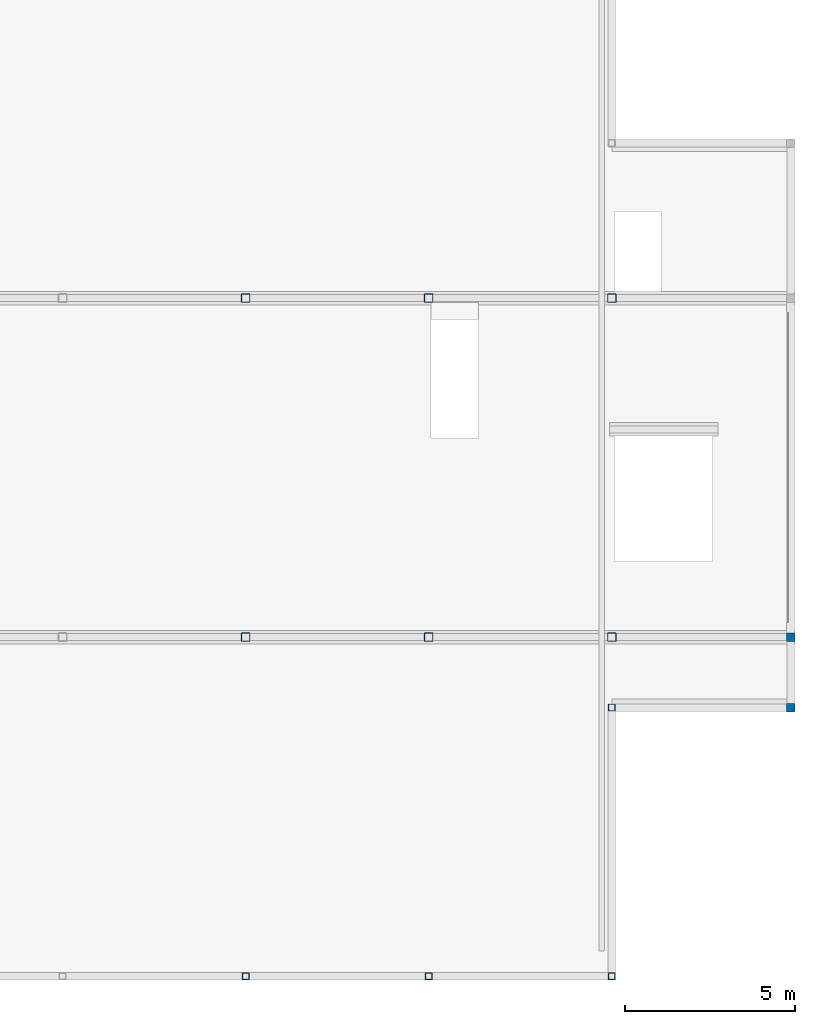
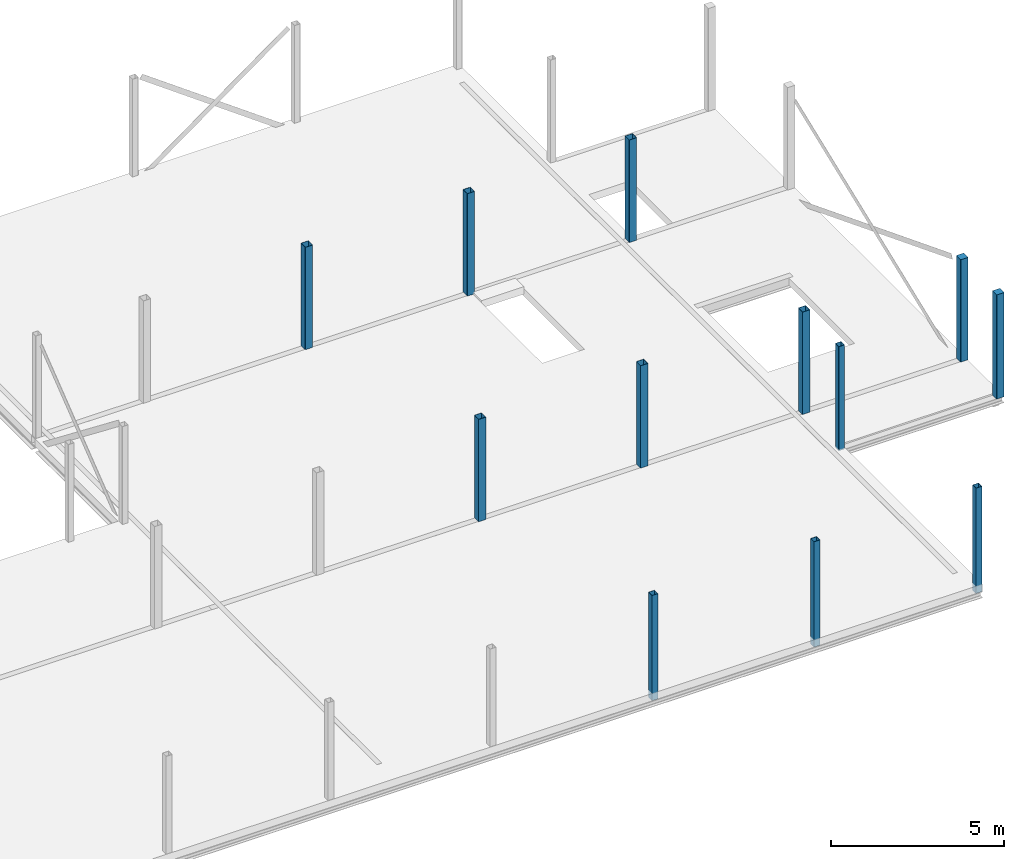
# One storey, part 4 of 7: 12 columns.
"""IFC2X3 building model written with IfcOpenShell, lengths in millimetres."""

from ifc_helpers import new_model, entity, si_unit, converted_unit, derived_unit, direction, frame, frame_2d, origin, place, context, subcontext, project, spatial, polyline, circle_curve, parameter, trimmed, segment, composite_curve, outline, extrude, source, transform, mapped, material, material_list, type_object, type_shapes, element, save


model = new_model("IFC2X3")

# Units and contexts
model_context = context("Model", 3, precision=0.01, world=origin(), true_north=direction((6.123031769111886e-17, 1.0)))
body_context = subcontext(model_context, "Body", "Model", "MODEL_VIEW")
ifc_project = project(units=[si_unit("LENGTHUNIT", "METRE", prefix="MILLI"), si_unit("AREAUNIT", "SQUARE_METRE"), si_unit("VOLUMEUNIT", "CUBIC_METRE"), converted_unit("PLANEANGLEUNIT", "DEGREE", entity("IfcPlaneAngleMeasure", 0.017453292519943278), si_unit("PLANEANGLEUNIT", "RADIAN"), dimensions=[0, 0, 0, 0, 0, 0, 0]), si_unit("MASSUNIT", "GRAM", prefix="KILO"), derived_unit("MASSDENSITYUNIT", [(si_unit("MASSUNIT", "GRAM", prefix="KILO"), 1), (si_unit("LENGTHUNIT", "METRE"), -3)]), derived_unit("IONCONCENTRATIONUNIT", [(si_unit("MASSUNIT", "GRAM", prefix="KILO"), 1), (si_unit("LENGTHUNIT", "METRE"), -3)]), derived_unit("MOMENTOFINERTIAUNIT", [(si_unit("LENGTHUNIT", "METRE"), 4)]), si_unit("TIMEUNIT", "SECOND"), si_unit("FREQUENCYUNIT", "HERTZ"), si_unit("THERMODYNAMICTEMPERATUREUNIT", "DEGREE_CELSIUS"), derived_unit("THERMALTRANSMITTANCEUNIT", [(si_unit("MASSUNIT", "GRAM", prefix="KILO"), 1), (si_unit("THERMODYNAMICTEMPERATUREUNIT", "KELVIN"), -1), (si_unit("TIMEUNIT", "SECOND"), -3)]), derived_unit("THERMALCONDUCTANCEUNIT", [(si_unit("MASSUNIT", "GRAM", prefix="KILO"), 1), (si_unit("THERMODYNAMICTEMPERATUREUNIT", "KELVIN"), -1), (si_unit("TIMEUNIT", "SECOND"), -3), (si_unit("LENGTHUNIT", "METRE"), 1)]), derived_unit("VOLUMETRICFLOWRATEUNIT", [(si_unit("LENGTHUNIT", "METRE", prefix="DECI"), 3), (si_unit("TIMEUNIT", "SECOND"), -1)]), derived_unit("MASSFLOWRATEUNIT", [(si_unit("MASSUNIT", "GRAM", prefix="KILO"), 1), (si_unit("TIMEUNIT", "SECOND"), -1)]), derived_unit("ROTATIONALFREQUENCYUNIT", [(si_unit("TIMEUNIT", "SECOND"), -1)]), si_unit("ELECTRICCURRENTUNIT", "AMPERE"), si_unit("ELECTRICVOLTAGEUNIT", "VOLT"), si_unit("POWERUNIT", "WATT"), si_unit("FORCEUNIT", "NEWTON", prefix="KILO"), si_unit("ILLUMINANCEUNIT", "LUX"), si_unit("LUMINOUSFLUXUNIT", "LUMEN"), si_unit("LUMINOUSINTENSITYUNIT", "CANDELA"), si_unit("ENERGYUNIT", "JOULE"), derived_unit("USERDEFINED", [(si_unit("MASSUNIT", "GRAM", prefix="KILO"), -1), (si_unit("LENGTHUNIT", "METRE"), -2), (si_unit("TIMEUNIT", "SECOND"), 3), (si_unit("LUMINOUSFLUXUNIT", "LUMEN"), 1)]), derived_unit("USERDEFINED", [(si_unit("MASSUNIT", "GRAM", prefix="KILO"), 1), (si_unit("TIMEUNIT", "SECOND"), -3), (si_unit("LENGTHUNIT", "METRE"), 3), (si_unit("ELECTRICCURRENTUNIT", "AMPERE"), -2)]), derived_unit("SOUNDPOWERUNIT", [(si_unit("MASSUNIT", "GRAM", prefix="KILO"), 1), (si_unit("TIMEUNIT", "SECOND"), -3), (si_unit("LENGTHUNIT", "METRE"), 2)]), derived_unit("SOUNDPRESSUREUNIT", [(si_unit("MASSUNIT", "GRAM", prefix="KILO"), 1), (si_unit("LENGTHUNIT", "METRE"), -1), (si_unit("TIMEUNIT", "SECOND"), -2)]), derived_unit("LINEARVELOCITYUNIT", [(si_unit("LENGTHUNIT", "METRE"), 1), (si_unit("TIMEUNIT", "SECOND"), -1)]), si_unit("PRESSUREUNIT", "PASCAL"), derived_unit("USERDEFINED", [(si_unit("MASSUNIT", "GRAM", prefix="KILO"), 1), (si_unit("LENGTHUNIT", "METRE"), -2), (si_unit("TIMEUNIT", "SECOND"), -2)]), derived_unit("LINEARFORCEUNIT", [(si_unit("MASSUNIT", "GRAM", prefix="KILO"), 1), (si_unit("TIMEUNIT", "SECOND"), -2)]), derived_unit("PLANARFORCEUNIT", [(si_unit("MASSUNIT", "GRAM", prefix="KILO"), 1), (si_unit("LENGTHUNIT", "METRE"), -1), (si_unit("TIMEUNIT", "SECOND"), -2)]), derived_unit("SPECIFICHEATCAPACITYUNIT", [(si_unit("THERMODYNAMICTEMPERATUREUNIT", "KELVIN"), -1), (si_unit("LENGTHUNIT", "METRE"), 2), (si_unit("TIMEUNIT", "SECOND"), -2)]), derived_unit("HEATFLUXDENSITYUNIT", [(si_unit("MASSUNIT", "GRAM", prefix="KILO"), 1), (si_unit("TIMEUNIT", "SECOND"), -3)]), derived_unit("HEATINGVALUEUNIT", [(si_unit("LENGTHUNIT", "METRE"), 2), (si_unit("TIMEUNIT", "SECOND"), -2)]), derived_unit("VAPORPERMEABILITYUNIT", [(si_unit("LENGTHUNIT", "METRE"), -1), (si_unit("TIMEUNIT", "SECOND"), 1)]), derived_unit("DYNAMICVISCOSITYUNIT", [(si_unit("MASSUNIT", "GRAM", prefix="KILO"), 1), (si_unit("TIMEUNIT", "SECOND"), -1), (si_unit("LENGTHUNIT", "METRE"), -1)]), derived_unit("THERMALEXPANSIONCOEFFICIENTUNIT", [(si_unit("THERMODYNAMICTEMPERATUREUNIT", "KELVIN"), -1)]), derived_unit("MODULUSOFELASTICITYUNIT", [(si_unit("MASSUNIT", "GRAM", prefix="KILO"), 1), (si_unit("LENGTHUNIT", "METRE"), -1), (si_unit("TIMEUNIT", "SECOND"), -2)]), derived_unit("ISOTHERMALMOISTURECAPACITYUNIT", [(si_unit("MASSUNIT", "GRAM", prefix="KILO"), -1), (si_unit("LENGTHUNIT", "METRE"), 3)]), derived_unit("MOISTUREDIFFUSIVITYUNIT", [(si_unit("TIMEUNIT", "SECOND"), -1), (si_unit("LENGTHUNIT", "METRE"), 2)]), derived_unit("MASSPERLENGTHUNIT", [(si_unit("MASSUNIT", "GRAM", prefix="KILO"), 1), (si_unit("LENGTHUNIT", "METRE"), -1)]), derived_unit("THERMALRESISTANCEUNIT", [(si_unit("MASSUNIT", "GRAM", prefix="KILO"), -1), (si_unit("TIMEUNIT", "SECOND"), 3), (si_unit("THERMODYNAMICTEMPERATUREUNIT", "KELVIN"), 1)]), derived_unit("ACCELERATIONUNIT", [(si_unit("LENGTHUNIT", "METRE"), 1), (si_unit("TIMEUNIT", "SECOND"), -2)]), derived_unit("ANGULARVELOCITYUNIT", [(si_unit("TIMEUNIT", "SECOND"), -1), (si_unit("PLANEANGLEUNIT", "RADIAN"), 1)]), derived_unit("LINEARSTIFFNESSUNIT", [(si_unit("MASSUNIT", "GRAM", prefix="KILO"), 1), (si_unit("TIMEUNIT", "SECOND"), -2)]), derived_unit("WARPINGCONSTANTUNIT", [(si_unit("LENGTHUNIT", "METRE"), 6)]), derived_unit("LINEARMOMENTUNIT", [(si_unit("MASSUNIT", "GRAM", prefix="KILO"), 1), (si_unit("LENGTHUNIT", "METRE"), 1), (si_unit("TIMEUNIT", "SECOND"), -2)]), derived_unit("TORQUEUNIT", [(si_unit("MASSUNIT", "GRAM", prefix="KILO"), 1), (si_unit("LENGTHUNIT", "METRE"), 2), (si_unit("TIMEUNIT", "SECOND"), -2)])], contexts=[model_context])

# Site, building, storey
site_placement = place(None, origin())
site = spatial("IfcSite", under=ifc_project, at=site_placement, Name="Default", CompositionType="ELEMENT")
building_placement = place(site_placement, origin())
building = spatial("IfcBuilding", under=site, at=building_placement, CompositionType="ELEMENT")
storey_placement = place(building_placement, frame((0.0, 0.0, 4000.0)))
storey = spatial("IfcBuildingStorey", under=building, at=storey_placement, Name="01 eerste verdieping", CompositionType="ELEMENT", Elevation=4000.0000000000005)

# Columns
ifc_material_1 = material(Name="VRI_staal")
column_type_1 = type_object("IfcColumnType", Name="28_SC_VRI_kolom_staal_koker:K200x200x8", PredefinedType="COLUMN", material=ifc_material_1)
shared_shape_1 = source(origin(), body_context, "Body", "SweptSolid", [
    extrude(outline(composite_curve([segment(polyline([(-88.0, -100.0), (88.0, -100.0)]), True, "CONTINUOUS"), segment(trimmed(circle_curve(frame_2d((88.0, -88.0), x_axis=(0.0, -1.0)), 12.0), [parameter(359.9999999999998)], [parameter(89.99999999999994)], True, "PARAMETER"), True, "CONTINUOUS"), segment(polyline([(100.0, -88.0), (100.0, 88.0)]), True, "CONTINUOUS"), segment(trimmed(circle_curve(frame_2d((88.0, 88.0), x_axis=(0.0, -1.0)), 12.0), [parameter(90.00000000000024)], [parameter(180.0000000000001)], True, "PARAMETER"), True, "CONTINUOUS"), segment(polyline([(88.0, 100.0), (-88.0, 100.0)]), True, "CONTINUOUS"), segment(trimmed(circle_curve(frame_2d((-88.0, 88.0), x_axis=(0.0, -1.0)), 12.0), [parameter(179.99999999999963)], [parameter(269.9999999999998)], True, "PARAMETER"), True, "CONTINUOUS"), segment(polyline([(-100.0, 88.0), (-100.0, -88.0)]), True, "CONTINUOUS"), segment(trimmed(circle_curve(frame_2d((-88.0, -88.0), x_axis=(0.0, -1.0)), 12.0), [parameter(270.00000000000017)], [parameter(1.0177774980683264e-13)], True, "PARAMETER"), True, "CONTINUOUS")], self_intersect=False), holes=[composite_curve([segment(trimmed(circle_curve(frame_2d((-88.0, 88.0), x_axis=(0.0, -1.0)), 4.0), [parameter(180.0000000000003)], [parameter(270.0000000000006)], True, "PARAMETER"), False, "CONTINUOUS"), segment(polyline([(-88.0, 92.0), (88.0, 92.0)]), True, "CONTINUOUS"), segment(trimmed(circle_curve(frame_2d((88.0, 88.0), x_axis=(0.0, -1.0)), 4.0), [parameter(90.00000000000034)], [parameter(179.99999999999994)], True, "PARAMETER"), False, "CONTINUOUS"), segment(polyline([(92.0, 88.0), (92.0, -88.0)]), True, "CONTINUOUS"), segment(trimmed(circle_curve(frame_2d((88.0, -88.0), x_axis=(0.0, -1.0)), 4.0), [parameter(5.088887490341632e-13)], [parameter(90.00000000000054)], True, "PARAMETER"), False, "CONTINUOUS"), segment(polyline([(88.0, -92.0), (-88.0, -92.0)]), True, "CONTINUOUS"), segment(trimmed(circle_curve(frame_2d((-88.0, -88.0), x_axis=(0.0, -1.0)), 4.0), [parameter(269.9999999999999)], [parameter(0.0)], True, "PARAMETER"), False, "CONTINUOUS"), segment(polyline([(-92.0, -88.0), (-92.0, 88.0)]), True, "CONTINUOUS")], self_intersect=False)]), frame((-5.0, 0.0, 3655.0), z_axis=(0.0, 0.0, 1.0), x_axis=(0.0, 1.0, 0.0)), (0.0, 0.0, 1.0), 3709.9999999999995),
])
type_shapes(column_type_1, [shared_shape_1])
for number, where in (
    (1, (42405.0, 10000.0, -4000.0)),
    (2, (53205.0, 10000.0, -4000.0)),
    (3, (47805.0, 10000.0, -4000.0)),
):
    element("IfcColumn", number, at=place(storey_placement, frame(where)), inside=storey, type_object=column_type_1, material=ifc_material_1, Name="28_SC_VRI_kolom_staal_koker:K200x200x8", ObjectType="28_SC_VRI_kolom_staal_koker:K200x200x8", context=body_context, shape_type="MappedRepresentation", body=[
        mapped(shared_shape_1, transform((0.0, 0.0, 0.0), scale=1.0)),
    ])
column_type_2 = type_object("IfcColumnType", Name="28_SC_VRI_kolom_staal_koker:K200x200x8", PredefinedType="COLUMN", material=ifc_material_1)
shared_shape_2 = source(origin(), body_context, "Body", "SweptSolid", [
    extrude(outline(composite_curve([segment(polyline([(-88.0, -100.0), (88.0, -100.0)]), True, "CONTINUOUS"), segment(trimmed(circle_curve(frame_2d((88.0, -88.0), x_axis=(0.0, -1.0)), 12.0), [parameter(359.9999999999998)], [parameter(89.99999999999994)], True, "PARAMETER"), True, "CONTINUOUS"), segment(polyline([(100.0, -88.0), (100.0, 88.0)]), True, "CONTINUOUS"), segment(trimmed(circle_curve(frame_2d((88.0, 88.0), x_axis=(0.0, -1.0)), 12.0), [parameter(90.00000000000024)], [parameter(180.0000000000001)], True, "PARAMETER"), True, "CONTINUOUS"), segment(polyline([(88.0, 100.0), (-88.0, 100.0)]), True, "CONTINUOUS"), segment(trimmed(circle_curve(frame_2d((-88.0, 88.0), x_axis=(0.0, -1.0)), 12.0), [parameter(179.99999999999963)], [parameter(269.9999999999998)], True, "PARAMETER"), True, "CONTINUOUS"), segment(polyline([(-100.0, 88.0), (-100.0, -88.0)]), True, "CONTINUOUS"), segment(trimmed(circle_curve(frame_2d((-88.0, -88.0), x_axis=(0.0, -1.0)), 12.0), [parameter(270.00000000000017)], [parameter(1.0177774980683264e-13)], True, "PARAMETER"), True, "CONTINUOUS")], self_intersect=False), holes=[composite_curve([segment(trimmed(circle_curve(frame_2d((-88.0, 88.0), x_axis=(0.0, -1.0)), 4.0), [parameter(180.0000000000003)], [parameter(270.0000000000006)], True, "PARAMETER"), False, "CONTINUOUS"), segment(polyline([(-88.0, 92.0), (88.0, 92.0)]), True, "CONTINUOUS"), segment(trimmed(circle_curve(frame_2d((88.0, 88.0), x_axis=(0.0, -1.0)), 4.0), [parameter(90.00000000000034)], [parameter(179.99999999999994)], True, "PARAMETER"), False, "CONTINUOUS"), segment(polyline([(92.0, 88.0), (92.0, -88.0)]), True, "CONTINUOUS"), segment(trimmed(circle_curve(frame_2d((88.0, -88.0), x_axis=(0.0, -1.0)), 4.0), [parameter(5.088887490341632e-13)], [parameter(90.00000000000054)], True, "PARAMETER"), False, "CONTINUOUS"), segment(polyline([(88.0, -92.0), (-88.0, -92.0)]), True, "CONTINUOUS"), segment(trimmed(circle_curve(frame_2d((-88.0, -88.0), x_axis=(0.0, -1.0)), 4.0), [parameter(269.9999999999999)], [parameter(0.0)], True, "PARAMETER"), False, "CONTINUOUS"), segment(polyline([(-92.0, -88.0), (-92.0, 88.0)]), True, "CONTINUOUS")], self_intersect=False)]), frame((-5.0, 0.0, 3875.0), z_axis=(0.0, 0.0, 1.0), x_axis=(0.0, 1.0, 0.0)), (0.0, 0.0, 1.0), 3669.9999999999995),
])
type_shapes(column_type_2, [shared_shape_2])
column_1_placement = place(storey_placement, frame((53205.0, 17925.0, -4000.0)))
element("IfcColumn", 4, at=column_1_placement, inside=storey, type_object=column_type_2, material=ifc_material_1, Name="28_SC_VRI_kolom_staal_koker:K200x200x8", ObjectType="28_SC_VRI_kolom_staal_koker:K200x200x8", context=body_context, shape_type="MappedRepresentation", body=[
    mapped(shared_shape_2, transform((0.0, 0.0, 0.0), scale=1.0)),
])
ifc_material_2 = material(Name="VRI_beton_ihwg")
ifc_material_list = material_list([ifc_material_2, ifc_material_1])
column_type_3 = type_object("IfcColumnType", Name="28_SC_VRI_kolom_staal_betongevuld_koker:K250x250x8_gevuld", PredefinedType="COLUMN", material=ifc_material_list)
shared_shape_3 = source(origin(), body_context, "Body", "SweptSolid", [
    extrude(outline(composite_curve([segment(polyline([(-113.0, -117.0), (113.0, -117.0)]), True, "CONTINUOUS"), segment(trimmed(circle_curve(frame_2d((113.0, -113.0), x_axis=(-1.0, 0.0)), 4.0), [parameter(89.99999999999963)], [parameter(179.9999999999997)], True, "PARAMETER"), True, "CONTINUOUS"), segment(polyline([(117.0, -113.0), (117.0, 113.0)]), True, "CONTINUOUS"), segment(trimmed(circle_curve(frame_2d((113.0, 113.0), x_axis=(-1.0, 0.0)), 4.0), [parameter(180.00000000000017)], [parameter(269.99999999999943)], True, "PARAMETER"), True, "CONTINUOUS"), segment(polyline([(113.0, 117.0), (-113.0, 117.0)]), True, "CONTINUOUS"), segment(trimmed(circle_curve(frame_2d((-113.0, 113.0), x_axis=(-1.0, 0.0)), 4.0), [parameter(269.99999999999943)], [parameter(359.9999999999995)], True, "PARAMETER"), True, "CONTINUOUS"), segment(polyline([(-117.0, 113.0), (-117.0, -113.0)]), True, "CONTINUOUS"), segment(trimmed(circle_curve(frame_2d((-113.0, -113.0), x_axis=(-1.0, 0.0)), 4.0), [parameter(359.9999999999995)], [parameter(89.99999999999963)], True, "PARAMETER"), True, "CONTINUOUS")], self_intersect=False)), frame((-5.0, 0.0, 3875.0), z_axis=(0.0, 0.0, 1.0), x_axis=(-1.0, 0.0, 0.0)), (0.0, 0.0, 1.0), 3669.9999999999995),
    extrude(outline(composite_curve([segment(polyline([(-113.0, -125.0), (113.0, -125.0)]), True, "CONTINUOUS"), segment(trimmed(circle_curve(frame_2d((113.0, -113.0), x_axis=(0.0, -1.0)), 12.0), [parameter(359.99999999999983)], [parameter(89.99999999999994)], True, "PARAMETER"), True, "CONTINUOUS"), segment(polyline([(125.0, -113.0), (125.0, 113.0)]), True, "CONTINUOUS"), segment(trimmed(circle_curve(frame_2d((113.0, 113.0), x_axis=(0.0, -1.0)), 12.0), [parameter(90.00000000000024)], [parameter(180.00000000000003)], True, "PARAMETER"), True, "CONTINUOUS"), segment(polyline([(113.0, 125.0), (-113.0, 125.0)]), True, "CONTINUOUS"), segment(trimmed(circle_curve(frame_2d((-113.0, 113.0), x_axis=(0.0, -1.0)), 12.0), [parameter(179.99999999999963)], [parameter(269.9999999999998)], True, "PARAMETER"), True, "CONTINUOUS"), segment(polyline([(-125.0, 113.0), (-125.0, -113.0)]), True, "CONTINUOUS"), segment(trimmed(circle_curve(frame_2d((-113.0, -113.0), x_axis=(0.0, -1.0)), 12.0), [parameter(270.00000000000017)], [parameter(1.0177774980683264e-13)], True, "PARAMETER"), True, "CONTINUOUS")], self_intersect=False), holes=[composite_curve([segment(trimmed(circle_curve(frame_2d((-113.0, 113.0), x_axis=(0.0, -1.0)), 4.0), [parameter(180.0000000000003)], [parameter(270.0000000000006)], True, "PARAMETER"), False, "CONTINUOUS"), segment(polyline([(-113.0, 117.0), (113.0, 117.0)]), True, "CONTINUOUS"), segment(trimmed(circle_curve(frame_2d((113.0, 113.0), x_axis=(0.0, -1.0)), 4.0), [parameter(90.00000000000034)], [parameter(179.9999999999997)], True, "PARAMETER"), False, "CONTINUOUS"), segment(polyline([(117.0, 113.0), (117.0, -113.0)]), True, "CONTINUOUS"), segment(trimmed(circle_curve(frame_2d((113.0, -113.0), x_axis=(0.0, -1.0)), 4.0), [parameter(5.088887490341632e-13)], [parameter(90.00000000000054)], True, "PARAMETER"), False, "CONTINUOUS"), segment(polyline([(113.0, -117.0), (-113.0, -117.0)]), True, "CONTINUOUS"), segment(trimmed(circle_curve(frame_2d((-113.0, -113.0), x_axis=(0.0, -1.0)), 4.0), [parameter(269.9999999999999)], [parameter(0.0)], True, "PARAMETER"), False, "CONTINUOUS"), segment(polyline([(-117.0, -113.0), (-117.0, 113.0)]), True, "CONTINUOUS")], self_intersect=False)]), frame((-5.0, 0.0, 3875.0), z_axis=(0.0, 0.0, 1.0), x_axis=(0.0, 1.0, 0.0)), (0.0, 0.0, 1.0), 3669.9999999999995),
])
type_shapes(column_type_3, [shared_shape_3])
column_2_placement = place(storey_placement, frame((58480.0, 17925.0, -4000.0)))
element("IfcColumn", 5, at=column_2_placement, inside=storey, type_object=column_type_3, material=ifc_material_list, Name="28_SC_VRI_kolom_staal_betongevuld_koker:K250x250x8_gevuld", ObjectType="28_SC_VRI_kolom_staal_betongevuld_koker:K250x250x8_gevuld", context=body_context, shape_type="MappedRepresentation", body=[
    mapped(shared_shape_3, transform((0.0, 0.0, 0.0), scale=1.0)),
])
column_type_4 = type_object("IfcColumnType", Name="28_SC_VRI_kolom_staal_betongevuld_koker:K250x250x8_gevuld", PredefinedType="COLUMN", material=ifc_material_list)
shared_shape_4 = source(origin(), body_context, "Body", "SweptSolid", [
    extrude(outline(composite_curve([segment(polyline([(-113.0, -117.0), (113.0, -117.0)]), True, "CONTINUOUS"), segment(trimmed(circle_curve(frame_2d((113.0, -113.0), x_axis=(-1.0, 0.0)), 4.0), [parameter(89.99999999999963)], [parameter(179.9999999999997)], True, "PARAMETER"), True, "CONTINUOUS"), segment(polyline([(117.0, -113.0), (117.0, 113.0)]), True, "CONTINUOUS"), segment(trimmed(circle_curve(frame_2d((113.0, 113.0), x_axis=(-1.0, 0.0)), 4.0), [parameter(180.00000000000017)], [parameter(269.99999999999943)], True, "PARAMETER"), True, "CONTINUOUS"), segment(polyline([(113.0, 117.0), (-113.0, 117.0)]), True, "CONTINUOUS"), segment(trimmed(circle_curve(frame_2d((-113.0, 113.0), x_axis=(-1.0, 0.0)), 4.0), [parameter(269.99999999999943)], [parameter(359.9999999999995)], True, "PARAMETER"), True, "CONTINUOUS"), segment(polyline([(-117.0, 113.0), (-117.0, -113.0)]), True, "CONTINUOUS"), segment(trimmed(circle_curve(frame_2d((-113.0, -113.0), x_axis=(-1.0, 0.0)), 4.0), [parameter(359.9999999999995)], [parameter(89.99999999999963)], True, "PARAMETER"), True, "CONTINUOUS")], self_intersect=False)), frame((-5.0, 0.0, 3920.0), z_axis=(0.0, 0.0, 1.0), x_axis=(-1.0, 0.0, 0.0)), (0.0, 0.0, 1.0), 3609.999999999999),
    extrude(outline(composite_curve([segment(polyline([(-113.0, -125.0), (113.0, -125.0)]), True, "CONTINUOUS"), segment(trimmed(circle_curve(frame_2d((113.0, -113.0), x_axis=(0.0, -1.0)), 12.0), [parameter(359.99999999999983)], [parameter(89.99999999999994)], True, "PARAMETER"), True, "CONTINUOUS"), segment(polyline([(125.0, -113.0), (125.0, 113.0)]), True, "CONTINUOUS"), segment(trimmed(circle_curve(frame_2d((113.0, 113.0), x_axis=(0.0, -1.0)), 12.0), [parameter(90.00000000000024)], [parameter(180.00000000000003)], True, "PARAMETER"), True, "CONTINUOUS"), segment(polyline([(113.0, 125.0), (-113.0, 125.0)]), True, "CONTINUOUS"), segment(trimmed(circle_curve(frame_2d((-113.0, 113.0), x_axis=(0.0, -1.0)), 12.0), [parameter(179.99999999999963)], [parameter(269.9999999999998)], True, "PARAMETER"), True, "CONTINUOUS"), segment(polyline([(-125.0, 113.0), (-125.0, -113.0)]), True, "CONTINUOUS"), segment(trimmed(circle_curve(frame_2d((-113.0, -113.0), x_axis=(0.0, -1.0)), 12.0), [parameter(270.00000000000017)], [parameter(1.0177774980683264e-13)], True, "PARAMETER"), True, "CONTINUOUS")], self_intersect=False), holes=[composite_curve([segment(trimmed(circle_curve(frame_2d((-113.0, 113.0), x_axis=(0.0, -1.0)), 4.0), [parameter(180.0000000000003)], [parameter(270.0000000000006)], True, "PARAMETER"), False, "CONTINUOUS"), segment(polyline([(-113.0, 117.0), (113.0, 117.0)]), True, "CONTINUOUS"), segment(trimmed(circle_curve(frame_2d((113.0, 113.0), x_axis=(0.0, -1.0)), 4.0), [parameter(90.00000000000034)], [parameter(179.9999999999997)], True, "PARAMETER"), False, "CONTINUOUS"), segment(polyline([(117.0, 113.0), (117.0, -113.0)]), True, "CONTINUOUS"), segment(trimmed(circle_curve(frame_2d((113.0, -113.0), x_axis=(0.0, -1.0)), 4.0), [parameter(5.088887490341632e-13)], [parameter(90.00000000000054)], True, "PARAMETER"), False, "CONTINUOUS"), segment(polyline([(113.0, -117.0), (-113.0, -117.0)]), True, "CONTINUOUS"), segment(trimmed(circle_curve(frame_2d((-113.0, -113.0), x_axis=(0.0, -1.0)), 4.0), [parameter(269.9999999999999)], [parameter(0.0)], True, "PARAMETER"), False, "CONTINUOUS"), segment(polyline([(-117.0, -113.0), (-117.0, 113.0)]), True, "CONTINUOUS")], self_intersect=False)]), frame((-5.0, 0.0, 3920.0), z_axis=(0.0, 0.0, 1.0), x_axis=(0.0, 1.0, 0.0)), (0.0, 0.0, 1.0), 3609.999999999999),
])
type_shapes(column_type_4, [shared_shape_4])
column_3_placement = place(storey_placement, frame((58480.0, 20000.0, -4000.0)))
element("IfcColumn", 6, at=column_3_placement, inside=storey, type_object=column_type_4, material=ifc_material_list, Name="28_SC_VRI_kolom_staal_betongevuld_koker:K250x250x8_gevuld", ObjectType="28_SC_VRI_kolom_staal_betongevuld_koker:K250x250x8_gevuld", context=body_context, shape_type="MappedRepresentation", body=[
    mapped(shared_shape_4, transform((0.0, 0.0, 0.0), scale=1.0)),
])
column_type_5 = type_object("IfcColumnType", Name="28_SC_VRI_kolom_staal_koker:K250x250x8", PredefinedType="COLUMN", material=ifc_material_1)
shared_shape_5 = source(origin(), body_context, "Body", "SweptSolid", [
    extrude(outline(composite_curve([segment(polyline([(-113.0, -125.0), (113.0, -125.0)]), True, "CONTINUOUS"), segment(trimmed(circle_curve(frame_2d((113.0, -113.0), x_axis=(0.0, -1.0)), 12.0), [parameter(359.99999999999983)], [parameter(89.99999999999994)], True, "PARAMETER"), True, "CONTINUOUS"), segment(polyline([(125.0, -113.0), (125.0, 113.0)]), True, "CONTINUOUS"), segment(trimmed(circle_curve(frame_2d((113.0, 113.0), x_axis=(0.0, -1.0)), 12.0), [parameter(90.00000000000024)], [parameter(180.00000000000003)], True, "PARAMETER"), True, "CONTINUOUS"), segment(polyline([(113.0, 125.0), (-113.0, 125.0)]), True, "CONTINUOUS"), segment(trimmed(circle_curve(frame_2d((-113.0, 113.0), x_axis=(0.0, -1.0)), 12.0), [parameter(179.99999999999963)], [parameter(269.9999999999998)], True, "PARAMETER"), True, "CONTINUOUS"), segment(polyline([(-125.0, 113.0), (-125.0, -113.0)]), True, "CONTINUOUS"), segment(trimmed(circle_curve(frame_2d((-113.0, -113.0), x_axis=(0.0, -1.0)), 12.0), [parameter(270.00000000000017)], [parameter(1.0177774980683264e-13)], True, "PARAMETER"), True, "CONTINUOUS")], self_intersect=False), holes=[composite_curve([segment(trimmed(circle_curve(frame_2d((-113.0, 113.0), x_axis=(0.0, -1.0)), 4.0), [parameter(180.0000000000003)], [parameter(270.0000000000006)], True, "PARAMETER"), False, "CONTINUOUS"), segment(polyline([(-113.0, 117.0), (113.0, 117.0)]), True, "CONTINUOUS"), segment(trimmed(circle_curve(frame_2d((113.0, 113.0), x_axis=(0.0, -1.0)), 4.0), [parameter(90.00000000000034)], [parameter(179.9999999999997)], True, "PARAMETER"), False, "CONTINUOUS"), segment(polyline([(117.0, 113.0), (117.0, -113.0)]), True, "CONTINUOUS"), segment(trimmed(circle_curve(frame_2d((113.0, -113.0), x_axis=(0.0, -1.0)), 4.0), [parameter(5.088887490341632e-13)], [parameter(90.00000000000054)], True, "PARAMETER"), False, "CONTINUOUS"), segment(polyline([(113.0, -117.0), (-113.0, -117.0)]), True, "CONTINUOUS"), segment(trimmed(circle_curve(frame_2d((-113.0, -113.0), x_axis=(0.0, -1.0)), 4.0), [parameter(269.9999999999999)], [parameter(0.0)], True, "PARAMETER"), False, "CONTINUOUS"), segment(polyline([(-117.0, -113.0), (-117.0, 113.0)]), True, "CONTINUOUS")], self_intersect=False)]), frame((-5.0, 0.0, 3920.0), z_axis=(0.0, 0.0, 1.0), x_axis=(0.0, 1.0, 0.0)), (0.0, 0.0, 1.0), 3609.999999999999),
])
type_shapes(column_type_5, [shared_shape_5])
for number, where in (
    (7, (53205.0, 20000.0, -4000.0)),
    (8, (42405.0, 20000.0, -4000.0)),
    (9, (42405.0, 30000.0, -4000.0)),
    (10, (53205.0, 30000.0, -4000.0)),
    (11, (47805.0, 20000.0, -4000.0)),
    (12, (47805.0, 30000.0, -4000.0)),
):
    element("IfcColumn", number, at=place(storey_placement, frame(where)), inside=storey, type_object=column_type_5, material=ifc_material_1, Name="28_SC_VRI_kolom_staal_koker:K250x250x8", ObjectType="28_SC_VRI_kolom_staal_koker:K250x250x8", context=body_context, shape_type="MappedRepresentation", body=[
        mapped(shared_shape_5, transform((0.0, 0.0, 0.0), scale=1.0)),
    ])

save(model, "model.ifc")
